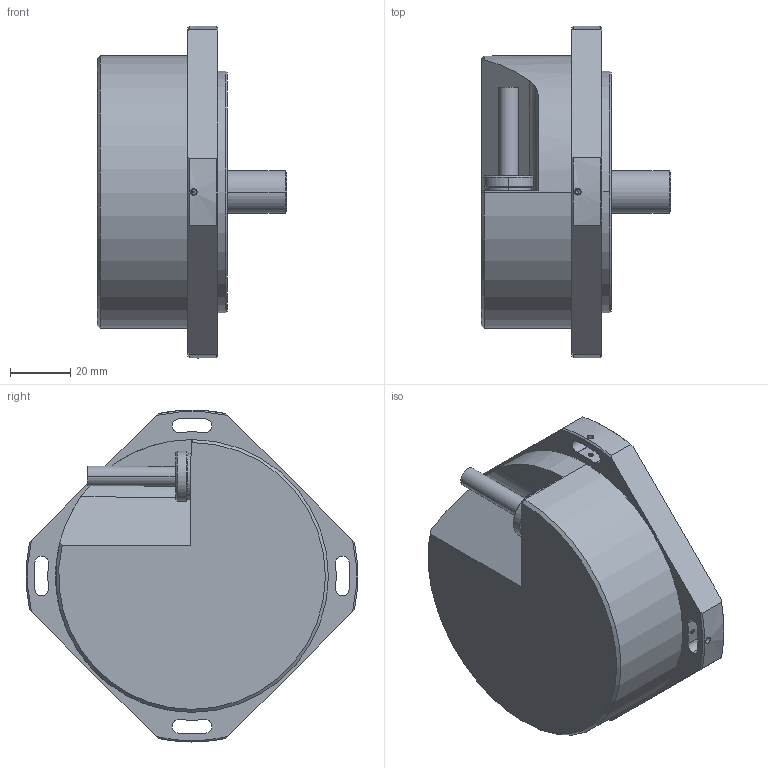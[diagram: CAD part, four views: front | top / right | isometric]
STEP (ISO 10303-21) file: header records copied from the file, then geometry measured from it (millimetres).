
FILE_DESCRIPTION (( 'STEP AP214' ), '1' );
FILE_NAME ('ﾋﾈﾐ-190ﾑ.STEP', '2017-05-23T08:53:37', ( '' ), ( '' ), 'SwSTEP 2.0', 'SolidWorks 2013', '' );
FILE_SCHEMA (( 'AUTOMOTIVE_DESIGN' ));
Length unit declared in the file: millimetre
Products named in the file (1): ﾋﾈﾐ-190ﾑ
Bounding box: 62.79 x 110 x 110 mm (x, y, z)
Surface area: 33169.1 mm2 (no closed solid volume)
Topology: 0 solids, 18 shells, 150 faces, 487 edges, 353 vertices
Faces by surface type: cylinder 62, plane 44, cone 32, torus 12
Entity records: 7745 total; most frequent: CARTESIAN_POINT 1960, DIRECTION 825, ORIENTED_EDGE 796, EDGE_CURVE 487, VERTEX_POINT 353, AXIS2_PLACEMENT_3D 335, CIRCLE 184, EDGE_LOOP 177
